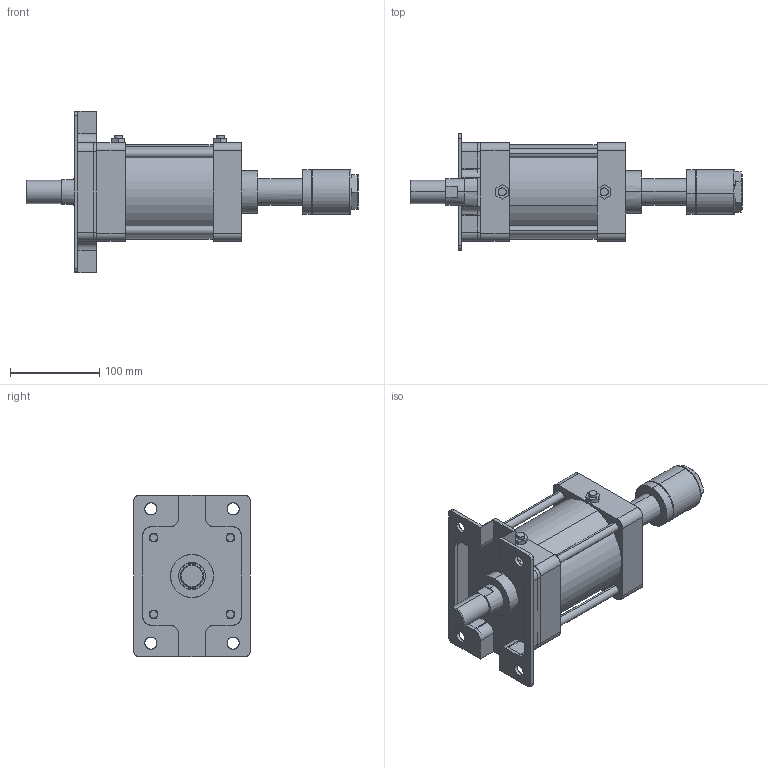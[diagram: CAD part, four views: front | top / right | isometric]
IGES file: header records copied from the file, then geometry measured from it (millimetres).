
Start section: SolidWorks IGES file using analytic representation for surfaces
Global section: file name: C:\Users\Toshiba\Desktop\KGA7-100#-50-A.IGS; native system: SolidWorks 2014; preprocessor: SolidWorks 2014; author: Toshiba; date: 160414.155453; units: millimetre
Bounding box: 371 x 130 x 180 mm (x, y, z)
Surface area: 303434.7 mm2 (no closed solid volume)
Topology: 0 solids, 0 shells, 424 faces, 7217 edges, 7213 vertices
Faces by surface type: bspline 227, revolution 197
